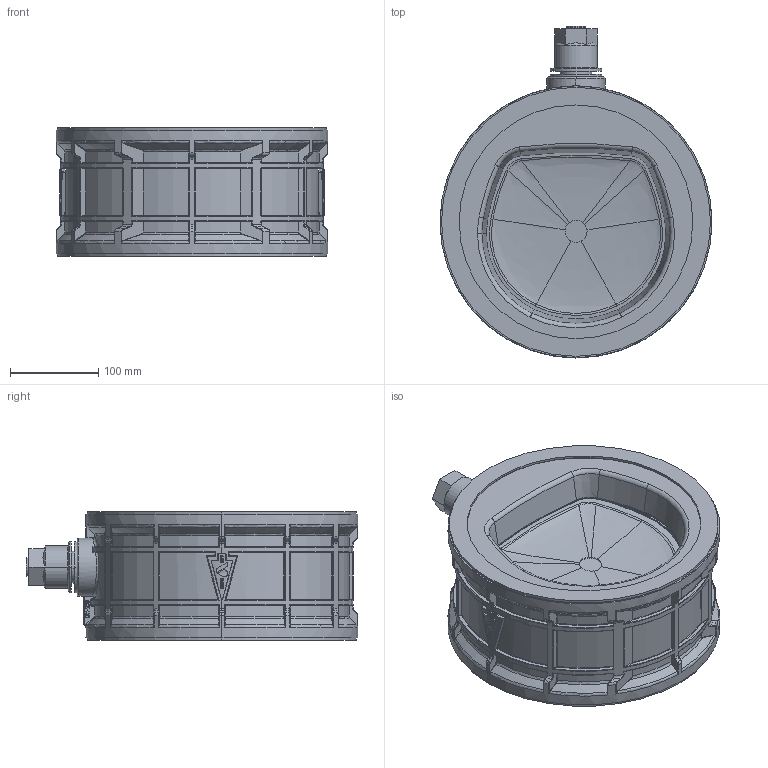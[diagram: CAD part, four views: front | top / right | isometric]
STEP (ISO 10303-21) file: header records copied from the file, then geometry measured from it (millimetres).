
FILE_DESCRIPTION (( 'STEP AP203' ), '1' );
FILE_NAME ('Assembly_NR-010_10.STEP', '2016-02-07T10:37:32', ( '' ), ( '' ), 'SwSTEP 2.0', 'SolidWorks 2014', '' );
FILE_SCHEMA (( 'CONFIG_CONTROL_DESIGN' ));
Products named in the file (1): Assembly_NR-010_10
Bounding box: 308 x 375.85 x 146 mm (x, y, z)
Surface area: 545522.6 mm2 (no closed solid volume)
Topology: 0 solids, 28 shells, 2049 faces, 6482 edges, 4130 vertices
Faces by surface type: bspline 848, cylinder 459, plane 283, torus 276, cone 148, sphere 35
Entity records: 105617 total; most frequent: CARTESIAN_POINT 57937, ORIENTED_EDGE 10311, DIRECTION 8196, EDGE_CURVE 6412, VERTEX_POINT 4130, AXIS2_PLACEMENT_3D 3476, B_SPLINE_CURVE_WITH_KNOTS 2728, CIRCLE 2274
